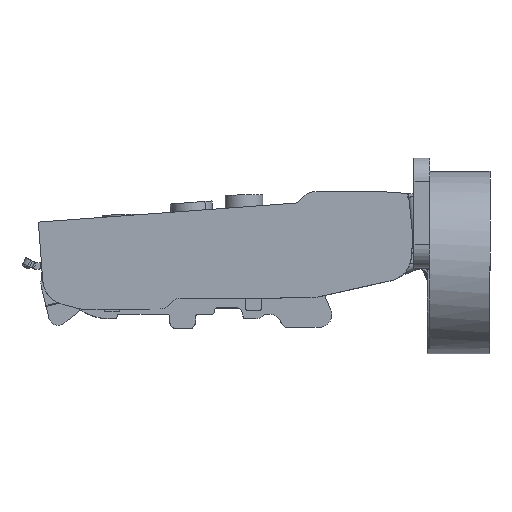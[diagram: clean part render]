
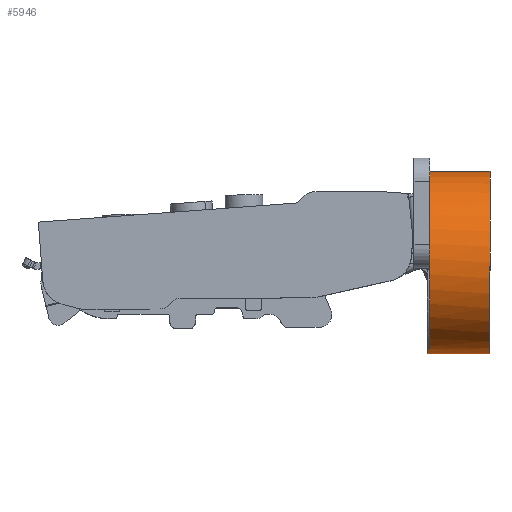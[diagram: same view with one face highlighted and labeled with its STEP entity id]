
A CAD part, top view. The second image highlights one B-rep face of the part: STEP entity #5946.
In plain terms, the highlighted cylindrical face has radius 17.4 mm (diameter 34.8 mm), a partial arc.
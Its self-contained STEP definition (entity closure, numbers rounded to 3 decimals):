
#22 = EDGE_CURVE ( 'NONE', #10800, #12056, #5531, .T. ) ;
#56 = CIRCLE ( 'NONE', #3407, 17.4 ) ;
#103 = DIRECTION ( 'NONE',  ( 1., 0., 0. ) ) ;
#497 = ORIENTED_EDGE ( 'NONE', *, *, #1647, .F. ) ;
#548 = ORIENTED_EDGE ( 'NONE', *, *, #5525, .F. ) ;
#588 = EDGE_CURVE ( 'NONE', #12918, #1809, #6336, .T. ) ;
#678 = VECTOR ( 'NONE', #103, 1000. ) ;
#691 = CARTESIAN_POINT ( 'NONE',  ( 38.065, -1.201, 7.5 ) ) ;
#702 = ORIENTED_EDGE ( 'NONE', *, *, #6484, .F. ) ;
#928 = CARTESIAN_POINT ( 'NONE',  ( 38.053, -1.201, 7.5 ) ) ;
#934 = ORIENTED_EDGE ( 'NONE', *, *, #6045, .F. ) ;
#1074 = CIRCLE ( 'NONE', #11317, 17.4 ) ;
#1227 = VERTEX_POINT ( 'NONE', #6641 ) ;
#1245 = CARTESIAN_POINT ( 'NONE',  ( 50., -2.9, 0. ) ) ;
#1336 = DIRECTION ( 'NONE',  ( 0., -1., 0. ) ) ;
#1647 = EDGE_CURVE ( 'NONE', #10800, #3724, #6633, .T. ) ;
#1788 = EDGE_CURVE ( 'NONE', #1227, #3490, #1074, .T. ) ;
#1809 = VERTEX_POINT ( 'NONE', #5957 ) ;
#1883 = ORIENTED_EDGE ( 'NONE', *, *, #5193, .T. ) ;
#2010 = CARTESIAN_POINT ( 'NONE',  ( 38.086, -1.267, 7.361 ) ) ;
#2444 = LINE ( 'NONE', #3435, #3372 ) ;
#2690 = CARTESIAN_POINT ( 'NONE',  ( 38.5, -1.386, 7.1 ) ) ;
#2750 = AXIS2_PLACEMENT_3D ( 'NONE', #5809, #3715, #9869 ) ;
#3075 = DIRECTION ( 'NONE',  ( 1., 0., 0. ) ) ;
#3125 = DIRECTION ( 'NONE',  ( -1., 0., 0. ) ) ;
#3372 = VECTOR ( 'NONE', #9196, 1000. ) ;
#3396 = VERTEX_POINT ( 'NONE', #1245 ) ;
#3407 = AXIS2_PLACEMENT_3D ( 'NONE', #7292, #11219, #8209 ) ;
#3435 = CARTESIAN_POINT ( 'NONE',  ( 28.5, -1.201, 7.5 ) ) ;
#3458 = CARTESIAN_POINT ( 'NONE',  ( 50., 31.9, 0. ) ) ;
#3490 = VERTEX_POINT ( 'NONE', #4573 ) ;
#3669 = ORIENTED_EDGE ( 'NONE', *, *, #22, .T. ) ;
#3715 = DIRECTION ( 'NONE',  ( 1., 0., 0. ) ) ;
#3724 = VERTEX_POINT ( 'NONE', #3458 ) ;
#3882 = ORIENTED_EDGE ( 'NONE', *, *, #1788, .T. ) ;
#4141 = EDGE_LOOP ( 'NONE', ( #3882, #1883, #548, #497, #3669, #6682, #9227, #702, #934 ) ) ;
#4461 = CARTESIAN_POINT ( 'NONE',  ( 38.5, 14.5, 0. ) ) ;
#4519 = DIRECTION ( 'NONE',  ( 1., 0., 0. ) ) ;
#4573 = CARTESIAN_POINT ( 'NONE',  ( 38., -2.9, 0. ) ) ;
#5153 = CARTESIAN_POINT ( 'NONE',  ( 38., -0.891, 8.117 ) ) ;
#5155 = CARTESIAN_POINT ( 'NONE',  ( -11.215, -1.386, 7.1 ) ) ;
#5193 = EDGE_CURVE ( 'NONE', #3490, #3396, #7118, .T. ) ;
#5212 = CARTESIAN_POINT ( 'NONE',  ( 38., -1.005, 7.9 ) ) ;
#5266 = VECTOR ( 'NONE', #3125, 1000. ) ;
#5303 = AXIS2_PLACEMENT_3D ( 'NONE', #4461, #7291, #1336 ) ;
#5525 = EDGE_CURVE ( 'NONE', #3724, #3396, #56, .T. ) ;
#5531 = CIRCLE ( 'NONE', #5303, 17.4 ) ;
#5809 = CARTESIAN_POINT ( 'NONE',  ( -34.784, 14.5, 0. ) ) ;
#5946 = ADVANCED_FACE ( 'NONE', ( #12679 ), #12621, .T. ) ;
#5957 = CARTESIAN_POINT ( 'NONE',  ( 38.119, -1.386, 7.1 ) ) ;
#6045 = EDGE_CURVE ( 'NONE', #1227, #10696, #6927, .T. ) ;
#6336 = B_SPLINE_CURVE_WITH_KNOTS ( 'NONE', 3,
 ( #11040, #2010, #11174, #7120 ),
 .UNSPECIFIED., .F., .F.,
 ( 4, 4 ),
 ( 0., 1. ),
 .UNSPECIFIED. ) ;
#6484 = EDGE_CURVE ( 'NONE', #10696, #12918, #2444, .T. ) ;
#6633 = LINE ( 'NONE', #12758, #8813 ) ;
#6641 = CARTESIAN_POINT ( 'NONE',  ( 38., -0.891, 8.117 ) ) ;
#6682 = ORIENTED_EDGE ( 'NONE', *, *, #12722, .T. ) ;
#6927 = B_SPLINE_CURVE_WITH_KNOTS ( 'NONE', 3,
 ( #5153, #5212, #11108, #8162 ),
 .UNSPECIFIED., .F., .F.,
 ( 4, 4 ),
 ( 0., 1. ),
 .UNSPECIFIED. ) ;
#7118 = LINE ( 'NONE', #9083, #678 ) ;
#7120 = CARTESIAN_POINT ( 'NONE',  ( 38.119, -1.386, 7.1 ) ) ;
#7291 = DIRECTION ( 'NONE',  ( 1., 0., 0. ) ) ;
#7292 = CARTESIAN_POINT ( 'NONE',  ( 50., 14.5, 0. ) ) ;
#8162 = CARTESIAN_POINT ( 'NONE',  ( 38.053, -1.201, 7.5 ) ) ;
#8209 = DIRECTION ( 'NONE',  ( 0., 1., 0. ) ) ;
#8384 = CARTESIAN_POINT ( 'NONE',  ( 38.5, 31.9, 0. ) ) ;
#8813 = VECTOR ( 'NONE', #4519, 1000. ) ;
#8845 = CARTESIAN_POINT ( 'NONE',  ( 38., 14.5, 0. ) ) ;
#9083 = CARTESIAN_POINT ( 'NONE',  ( -34.784, -2.9, 0. ) ) ;
#9196 = DIRECTION ( 'NONE',  ( 1., 0., 0. ) ) ;
#9227 = ORIENTED_EDGE ( 'NONE', *, *, #588, .F. ) ;
#9869 = DIRECTION ( 'NONE',  ( 0., 1., 0. ) ) ;
#10696 = VERTEX_POINT ( 'NONE', #928 ) ;
#10800 = VERTEX_POINT ( 'NONE', #8384 ) ;
#10803 = DIRECTION ( 'NONE',  ( 0., -1., 0. ) ) ;
#11040 = CARTESIAN_POINT ( 'NONE',  ( 38.065, -1.201, 7.5 ) ) ;
#11108 = CARTESIAN_POINT ( 'NONE',  ( 38.027, -1.106, 7.697 ) ) ;
#11174 = CARTESIAN_POINT ( 'NONE',  ( 38.106, -1.327, 7.23 ) ) ;
#11219 = DIRECTION ( 'NONE',  ( 1., 0., 0. ) ) ;
#11317 = AXIS2_PLACEMENT_3D ( 'NONE', #8845, #3075, #10803 ) ;
#12056 = VERTEX_POINT ( 'NONE', #2690 ) ;
#12091 = LINE ( 'NONE', #5155, #5266 ) ;
#12621 = CYLINDRICAL_SURFACE ( 'NONE', #2750, 17.4 ) ;
#12679 = FACE_OUTER_BOUND ( 'NONE', #4141, .T. ) ;
#12722 = EDGE_CURVE ( 'NONE', #12056, #1809, #12091, .T. ) ;
#12758 = CARTESIAN_POINT ( 'NONE',  ( -34.784, 31.9, 0. ) ) ;
#12918 = VERTEX_POINT ( 'NONE', #691 ) ;
